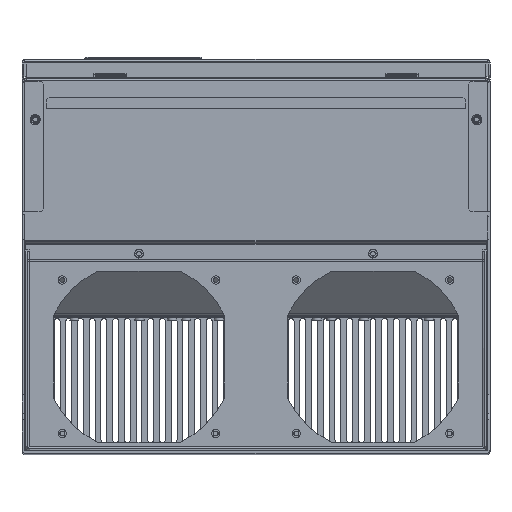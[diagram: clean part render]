
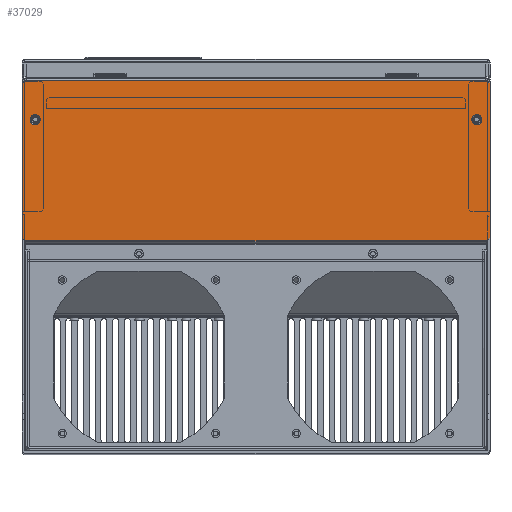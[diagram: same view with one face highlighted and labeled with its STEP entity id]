
A CAD part, top view. The second image highlights one B-rep face of the part: STEP entity #37029.
In plain terms, the highlighted planar face has unit normal (0, 0, 1) as drawn and (0, -1, 0) by its records, which use the part's own axes.
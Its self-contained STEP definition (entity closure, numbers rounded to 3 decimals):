
#33400=DIRECTION('',(-1.,0.,0.));
#33401=VECTOR('',#33400,315.);
#33402=CARTESIAN_POINT('',(157.5,-45.8,-143.2));
#33403=LINE('',#33402,#33401);
#33430=DIRECTION('',(0.707,0.,-0.707));
#33431=VECTOR('',#33430,2.828);
#33432=CARTESIAN_POINT('',(-160.,-45.8,-250.5));
#33433=LINE('',#33432,#33431);
#33437=DIRECTION('',(0.,0.,-1.));
#33438=VECTOR('',#33437,105.3);
#33439=CARTESIAN_POINT('',(-160.,-45.8,-145.2));
#33440=LINE('',#33439,#33438);
#33444=DIRECTION('',(-0.707,0.,-0.707));
#33445=VECTOR('',#33444,2.828);
#33446=CARTESIAN_POINT('',(-158.,-45.8,-143.2));
#33447=LINE('',#33446,#33445);
#33451=DIRECTION('',(-1.,0.,0.));
#33452=VECTOR('',#33451,0.5);
#33453=CARTESIAN_POINT('',(-157.5,-45.8,-143.2));
#33454=LINE('',#33453,#33452);
#33458=DIRECTION('',(1.,0.,0.));
#33459=VECTOR('',#33458,0.5);
#33460=CARTESIAN_POINT('',(157.5,-45.8,-143.2));
#33461=LINE('',#33460,#33459);
#33465=DIRECTION('',(-0.707,0.,0.707));
#33466=VECTOR('',#33465,2.828);
#33467=CARTESIAN_POINT('',(160.,-45.8,-145.2));
#33468=LINE('',#33467,#33466);
#33472=DIRECTION('',(0.,0.,-1.));
#33473=VECTOR('',#33472,105.3);
#33474=CARTESIAN_POINT('',(160.,-45.8,-145.2));
#33475=LINE('',#33474,#33473);
#33479=DIRECTION('',(0.707,0.,0.707));
#33480=VECTOR('',#33479,2.828);
#33481=CARTESIAN_POINT('',(158.,-45.8,-252.5));
#33482=LINE('',#33481,#33480);
#33486=DIRECTION('',(-1.,0.,0.));
#33487=VECTOR('',#33486,1.);
#33488=CARTESIAN_POINT('',(158.,-45.8,-252.5));
#33489=LINE('',#33488,#33487);
#33493=DIRECTION('',(0.,0.,1.));
#33494=VECTOR('',#33493,0.074);
#33495=CARTESIAN_POINT('',(157.,-45.8,-252.574));
#33496=LINE('',#33495,#33494);
#33500=DIRECTION('',(0.,0.,1.));
#33501=VECTOR('',#33500,0.074);
#33502=CARTESIAN_POINT('',(-157.,-45.8,-252.574));
#33503=LINE('',#33502,#33501);
#33507=DIRECTION('',(-1.,0.,0.));
#33508=VECTOR('',#33507,1.);
#33509=CARTESIAN_POINT('',(-157.,-45.8,-252.5));
#33510=LINE('',#33509,#33508);
#33514=CARTESIAN_POINT('',(151.,-45.8,-226.));
#33515=DIRECTION('',(0.,1.,0.));
#33516=DIRECTION('',(-1.,0.,0.));
#33517=AXIS2_PLACEMENT_3D('',#33514,#33515,#33516);
#33522=CARTESIAN_POINT('',(151.,-45.8,-226.));
#33523=DIRECTION('',(0.,1.,0.));
#33524=DIRECTION('',(1.,0.,0.));
#33525=AXIS2_PLACEMENT_3D('',#33522,#33523,#33524);
#33530=CARTESIAN_POINT('',(-151.,-45.8,-226.));
#33531=DIRECTION('',(0.,1.,0.));
#33532=DIRECTION('',(-1.,0.,0.));
#33533=AXIS2_PLACEMENT_3D('',#33530,#33531,#33532);
#33538=CARTESIAN_POINT('',(-151.,-45.8,-226.));
#33539=DIRECTION('',(0.,1.,0.));
#33540=DIRECTION('',(1.,0.,0.));
#33541=AXIS2_PLACEMENT_3D('',#33538,#33539,#33540);
#33620=DIRECTION('',(-1.,0.,0.));
#33621=VECTOR('',#33620,314.);
#33622=CARTESIAN_POINT('',(157.,-45.8,-252.574));
#33623=LINE('',#33622,#33621);
#36346=CARTESIAN_POINT('',(-157.5,-45.8,-143.2));
#36347=VERTEX_POINT('',#36346);
#36348=CARTESIAN_POINT('',(157.5,-45.8,-143.2));
#36349=VERTEX_POINT('',#36348);
#36546=CARTESIAN_POINT('',(-160.,-45.8,-250.5));
#36547=CARTESIAN_POINT('',(-158.,-45.8,-252.5));
#36548=VERTEX_POINT('',#36546);
#36549=VERTEX_POINT('',#36547);
#36554=CARTESIAN_POINT('',(-158.,-45.8,-143.2));
#36555=CARTESIAN_POINT('',(-160.,-45.8,-145.2));
#36556=VERTEX_POINT('',#36554);
#36557=VERTEX_POINT('',#36555);
#36566=CARTESIAN_POINT('',(160.,-45.8,-145.2));
#36567=VERTEX_POINT('',#36566);
#36568=CARTESIAN_POINT('',(158.,-45.8,-143.2));
#36569=VERTEX_POINT('',#36568);
#36574=CARTESIAN_POINT('',(158.,-45.8,-252.5));
#36575=VERTEX_POINT('',#36574);
#36576=CARTESIAN_POINT('',(160.,-45.8,-250.5));
#36577=VERTEX_POINT('',#36576);
#36618=CARTESIAN_POINT('',(147.5,-45.8,-226.));
#36619=CARTESIAN_POINT('',(154.5,-45.8,-226.));
#36620=VERTEX_POINT('',#36618);
#36621=VERTEX_POINT('',#36619);
#36626=CARTESIAN_POINT('',(-154.5,-45.8,-226.));
#36627=CARTESIAN_POINT('',(-147.5,-45.8,-226.));
#36628=VERTEX_POINT('',#36626);
#36629=VERTEX_POINT('',#36627);
#36810=CARTESIAN_POINT('',(157.,-45.8,-252.574));
#36811=VERTEX_POINT('',#36810);
#36814=CARTESIAN_POINT('',(-157.,-45.8,-252.574));
#36815=VERTEX_POINT('',#36814);
#36818=CARTESIAN_POINT('',(157.,-45.8,-252.5));
#36819=VERTEX_POINT('',#36818);
#36820=CARTESIAN_POINT('',(-157.,-45.8,-252.5));
#36821=VERTEX_POINT('',#36820);
#36983=CARTESIAN_POINT('',(-157.5,-45.8,-141.5));
#36984=DIRECTION('',(0.,-1.,0.));
#36985=DIRECTION('',(-1.,0.,0.));
#36986=AXIS2_PLACEMENT_3D('',#36983,#36984,#36985);
#36987=PLANE('',#36986);
#36989=ORIENTED_EDGE('',*,*,#36988,.F.);
#36991=ORIENTED_EDGE('',*,*,#36990,.F.);
#36993=ORIENTED_EDGE('',*,*,#36992,.F.);
#36995=ORIENTED_EDGE('',*,*,#36994,.F.);
#36996=ORIENTED_EDGE('',*,*,#36974,.F.);
#36998=ORIENTED_EDGE('',*,*,#36997,.T.);
#37000=ORIENTED_EDGE('',*,*,#36999,.F.);
#37002=ORIENTED_EDGE('',*,*,#37001,.T.);
#37004=ORIENTED_EDGE('',*,*,#37003,.F.);
#37006=ORIENTED_EDGE('',*,*,#37005,.T.);
#37008=ORIENTED_EDGE('',*,*,#37007,.F.);
#37010=ORIENTED_EDGE('',*,*,#37009,.T.);
#37012=ORIENTED_EDGE('',*,*,#37011,.T.);
#37014=ORIENTED_EDGE('',*,*,#37013,.T.);
#37015=EDGE_LOOP('',(#36989,#36991,#36993,#36995,#36996,#36998,#37000,#37002,
#37004,#37006,#37008,#37010,#37012,#37014));
#37016=FACE_OUTER_BOUND('',#37015,.F.);
#37018=ORIENTED_EDGE('',*,*,#37017,.F.);
#37020=ORIENTED_EDGE('',*,*,#37019,.F.);
#37021=EDGE_LOOP('',(#37018,#37020));
#37022=FACE_BOUND('',#37021,.F.);
#37024=ORIENTED_EDGE('',*,*,#37023,.F.);
#37026=ORIENTED_EDGE('',*,*,#37025,.F.);
#37027=EDGE_LOOP('',(#37024,#37026));
#37028=FACE_BOUND('',#37027,.F.);
#37029=ADVANCED_FACE('',(#37016,#37022,#37028),#36987,.T.);
#33518=CIRCLE('',#33517,3.5);
#33526=CIRCLE('',#33525,3.5);
#33534=CIRCLE('',#33533,3.5);
#33542=CIRCLE('',#33541,3.5);
#36974=EDGE_CURVE('',#36349,#36347,#33403,.T.);
#36988=EDGE_CURVE('',#36548,#36549,#33433,.T.);
#36990=EDGE_CURVE('',#36557,#36548,#33440,.T.);
#36992=EDGE_CURVE('',#36556,#36557,#33447,.T.);
#36994=EDGE_CURVE('',#36347,#36556,#33454,.T.);
#36997=EDGE_CURVE('',#36349,#36569,#33461,.T.);
#36999=EDGE_CURVE('',#36567,#36569,#33468,.T.);
#37001=EDGE_CURVE('',#36567,#36577,#33475,.T.);
#37003=EDGE_CURVE('',#36575,#36577,#33482,.T.);
#37005=EDGE_CURVE('',#36575,#36819,#33489,.T.);
#37007=EDGE_CURVE('',#36811,#36819,#33496,.T.);
#37009=EDGE_CURVE('',#36811,#36815,#33623,.T.);
#37011=EDGE_CURVE('',#36815,#36821,#33503,.T.);
#37013=EDGE_CURVE('',#36821,#36549,#33510,.T.);
#37017=EDGE_CURVE('',#36620,#36621,#33518,.T.);
#37019=EDGE_CURVE('',#36621,#36620,#33526,.T.);
#37023=EDGE_CURVE('',#36628,#36629,#33534,.T.);
#37025=EDGE_CURVE('',#36629,#36628,#33542,.T.);
